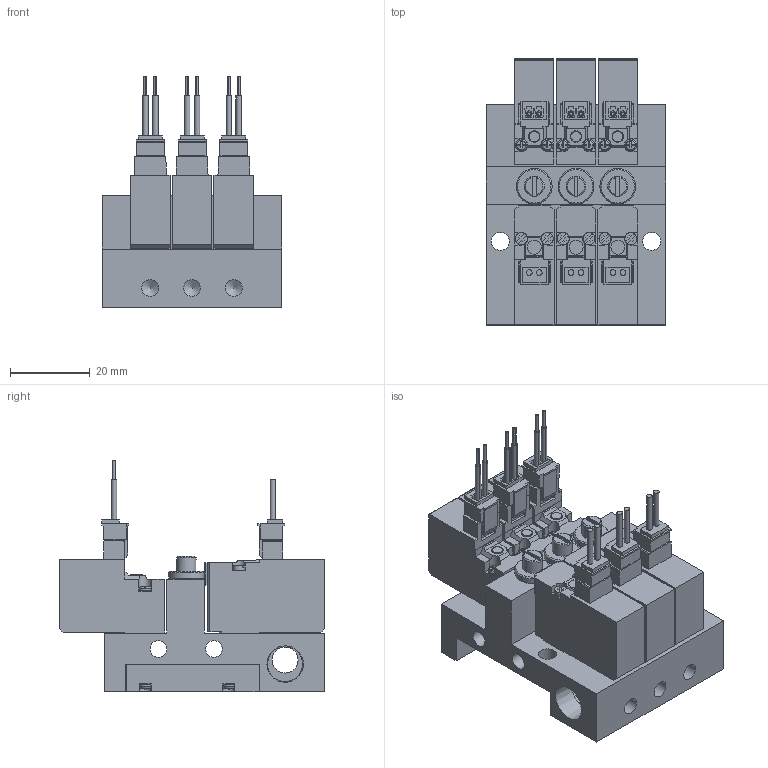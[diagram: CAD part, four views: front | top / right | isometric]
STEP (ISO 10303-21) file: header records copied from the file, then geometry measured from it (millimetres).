
FILE_DESCRIPTION(('STEP AP203'),'1');
FILE_NAME('2-NO(NC)-4EZ-M03.stp','2025-05-09T00:47:49',(' '),(' '),'Spatial InterOp 3D',' ',' ');
FILE_SCHEMA(('CONFIG_CONTROL_DESIGN'));
Length unit declared in the file: millimetre
Products named in the file (35): PV1※2-NO(NC)-4EZ-M03; BODY; PLATE; NEEDLE; BOLT; SOLENOID VALVE VOLTAGE PV; 42; 45; 48; 51; SOLENOID VALVE VOLTAGE PV-NC2
Assembly tree (34 placements, depth 3):
  PV1※2-NO(NC)-4EZ-M03
    BODY
    PLATE
    PLATE
    NEEDLE
    BOLT
    BOLT
    BOLT
    BOLT
    BOLT
    BOLT
    SOLENOID VALVE VOLTAGE PV
      42
      45
      48
      51
    NEEDLE
    SOLENOID VALVE VOLTAGE PV
      42
      45
      48
      51
    NEEDLE
    SOLENOID VALVE VOLTAGE PV
      42
      45
      48
      51
    PLATE
    BOLT
    BOLT
    BOLT
    SOLENOID VALVE VOLTAGE PV-NC2
    SOLENOID VALVE VOLTAGE PV-NC2
    SOLENOID VALVE VOLTAGE PV-NC2
Bounding box: 45 x 66.8 x 58.25 mm (x, y, z)
Volume: 66710.2 mm3; surface area: 34110 mm2
Topology: 31 solids, 31 shells, 1222 faces, 3401 edges, 2309 vertices
Faces by surface type: plane 907, cylinder 217, torus 48, bspline 30, cone 20
Full cylindrical faces by diameter (mm): 1.4 x6, 2 x9, 3 x15, 3.5 x3, 4.2 x8, 4.5 x2, 5 x3, 6.5 x1, 8.797 x2, 9 x3
Entity records: 40794 total; most frequent: CARTESIAN_POINT 7403, DIRECTION 6602, ORIENTED_EDGE 6542, EDGE_CURVE 3271, VERTEX_POINT 2266, LINE 2256, VECTOR 2256, AXIS2_PLACEMENT_3D 2173
